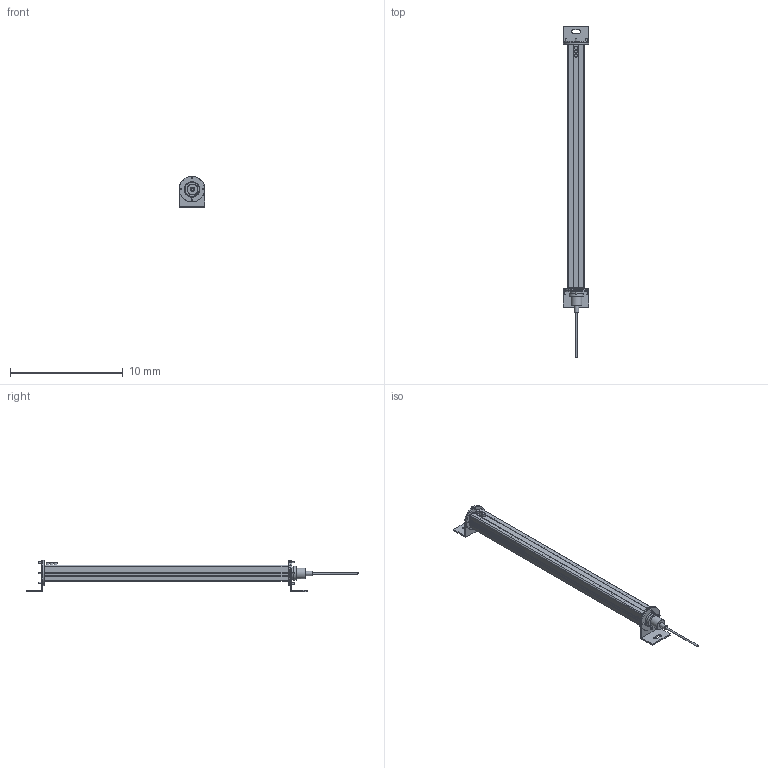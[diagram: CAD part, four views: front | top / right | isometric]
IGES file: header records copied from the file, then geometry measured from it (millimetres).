
Start section:  Autodesk DirectConnect version 7.0.27.0 ---- IGES version 5.3
Global section: file name: C:\ACADFILES\MG_PYLONS\MG-20-PYLON_3D_SMB.iges; native system: Autodesk DirectConnect 7.0.27.0; preprocessor: 7.0.27.0; author: ENGINEERMAIN; organization: Unknown; date: 20150810.133223; units: millimetre
Bounding box: 2.26 x 29.44 x 2.75 mm (x, y, z)
Surface area: 392.2 mm2 (no closed solid volume)
Topology: 0 solids, 0 shells, 771 faces, 3970 edges, 3969 vertices
Faces by surface type: bspline 771
